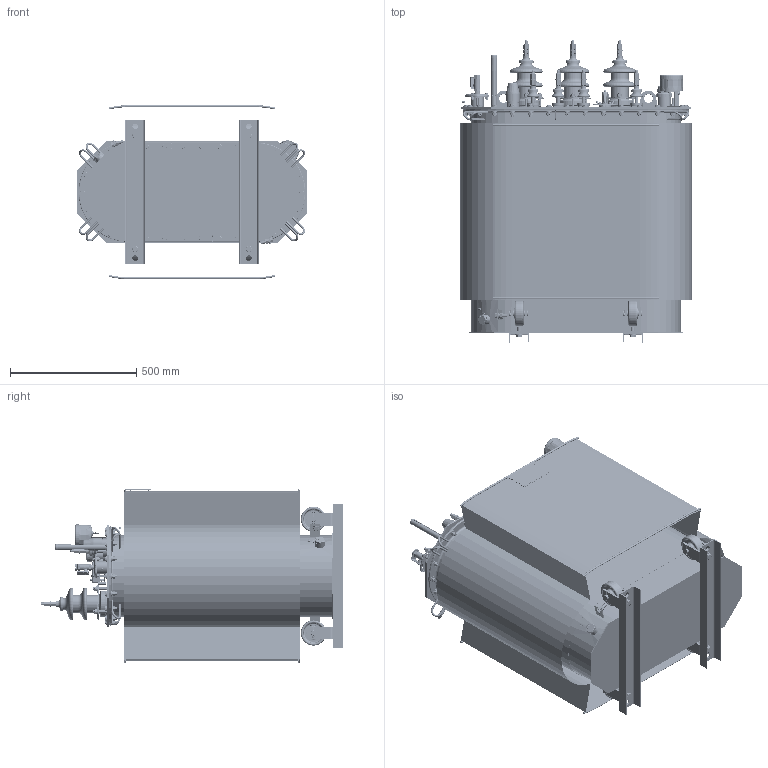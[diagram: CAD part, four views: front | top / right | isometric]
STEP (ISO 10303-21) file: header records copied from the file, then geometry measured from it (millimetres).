
FILE_DESCRIPTION(/* description */ (''),/* implementation_level */ '2;1');
FILE_NAME(/* name */ 'D:\SEARCHWORK\3Д_Модели\ТМГ33-100\Серийный\ТМГ33-100-10-У1-Х3К2.stp',/* time_stamp */ '2024-11-20T12:45:02+03:00',/* author */ ('53122'),/* organization */ (''),/* preprocessor_version */ 'ST-DEVELOPER v18.1',/* originating_system */ 'Autodesk Inventor 2021',/* authorisation */ '');
FILE_SCHEMA (('AUTOMOTIVE_DESIGN { 1 0 10303 214 3 1 1 }'));
Products named in the file (1): ВИЕЛ.672233.079_Shrinkwrap_1
Bounding box: 918 x 1199.9 x 690.44 mm (x, y, z)
Volume: 13893185.4 mm3; surface area: 9577561.1 mm2
Topology: 454 solids, 455 shells, 8304 faces, 19554 edges, 12239 vertices
Faces by surface type: plane 3837, cylinder 1844, bspline 1510, cone 502, torus 487, sphere 124
Full cylindrical faces by diameter (mm): 1.5 x4, 1.6 x7, 2 x4, 3 x9, 3.1 x4, 3.2 x4, 3.4 x4, 3.8 x4, 3.96 x3, 4 x14, 4.8 x15, 4.917 x2, 5 x8, 5.3 x3, 5.5 x2, 5.94 x6, 6 x40, 6.2 x5, 6.5 x6, 7 x10, 7.1 x2, 7.92 x3, 8 x36, 8.5 x3, 9 x4, 9.9 x30, 10 x162, 10.7 x11, 11 x61, 11.88 x2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
Entity records: 284449 total; most frequent: CARTESIAN_POINT 94932, ORIENTED_EDGE 38522, DIRECTION 34212, EDGE_CURVE 19273, AXIS2_PLACEMENT_3D 12685, VERTEX_POINT 12237, EDGE_LOOP 9594, LINE 8842
